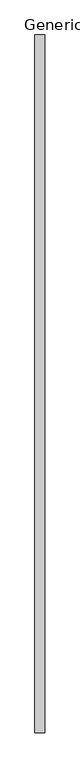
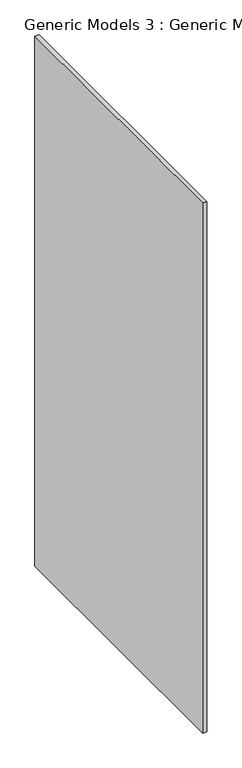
"""IFC4 building model written with IfcOpenShell, lengths in millimetres: proxy geometry, Generic Models 3 : Generic Models 3."""

from ifc_helpers import new_model, si_unit, origin, origin_with_axes, place, context, project, spatial, polyline, outline, extrude, source, transform, mapped, element, save


def generic_models_3_generic_models_3_543b1663(model_context):
    return source(origin(), model_context, "Body", "SweptSolid", [
        extrude(outline(polyline([(11269.5756115, 13518.2664981), (11289.5756115, 13518.2664981), (11289.5756115, 12118.2664981), (11269.5756115, 12118.2664981), (11269.5756115, 13518.2664981)])), origin_with_axes(), (0.0, 0.0, 1.0), 2700.0),
    ])


if __name__ == "__main__":
    model = new_model("IFC4")
    model_context = context("Model", 3, world=origin())
    ifc_project = project(units=[si_unit("LENGTHUNIT", "METRE", prefix="MILLI")], contexts=[model_context])
    site = spatial("IfcSite", under=ifc_project)
    building = spatial("IfcBuilding", under=site)
    placement = place(None, origin())
    generic_models_3_generic_models_3_shape = generic_models_3_generic_models_3_543b1663(model_context)
    element("IfcBuildingElementProxy", 1, Name="Generic Models 3 : Generic Models 3", ObjectType="Generic Models 3 : Generic Models 3", at=placement, inside=building, context=model_context, shape_type="MappedRepresentation", body=[
        mapped(generic_models_3_generic_models_3_shape, transform((0.0, 0.0, 0.0), x_axis=(1.0, 0.0, 0.0), y_axis=(0.0, 1.0, 0.0), z_axis=(0.0, 0.0, 1.0))),
    ])
    save(model, "model.ifc")
